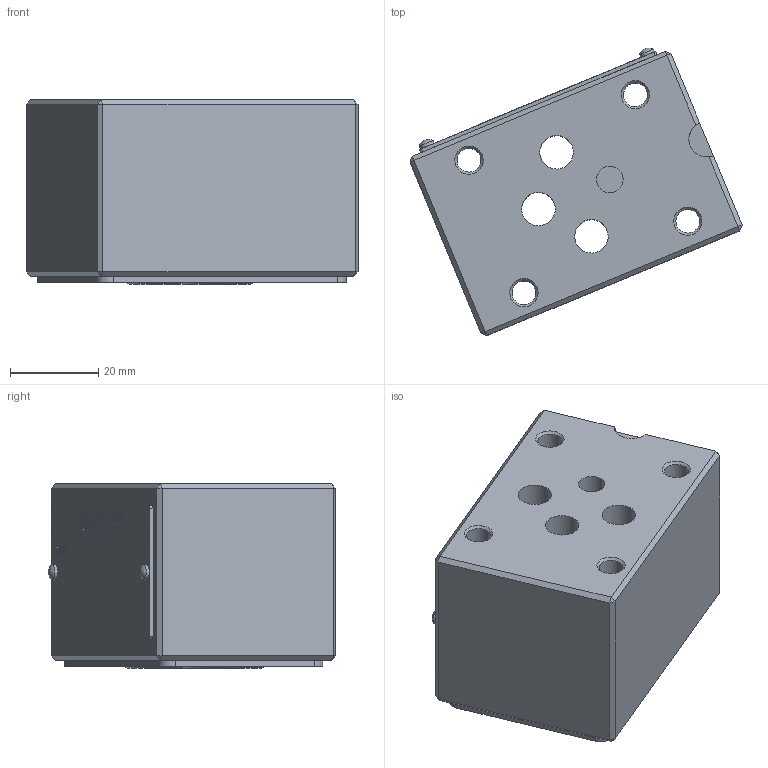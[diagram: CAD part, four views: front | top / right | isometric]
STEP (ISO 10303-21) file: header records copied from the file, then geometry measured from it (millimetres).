
FILE_DESCRIPTION(/* description */ (''),/* implementation_level */ '2;1');
FILE_NAME(/* name */ 'Z1S6C叠加式单向阀.prt.stp',/* time_stamp */ '2022-03-30T19:24:16+08:00',/* author */ (''),/* organization */ (''),/* preprocessor_version */ 'ST-DEVELOPER v16.7',/* originating_system */ 'SIEMENS PLM Software NX 12.0',/* authorisation */ '');
FILE_SCHEMA (('AUTOMOTIVE_DESIGN { 1 0 10303 214 3 1 1 1 }'));
Length unit declared in the file: millimetre
Products named in the file (1): Z1S6C叠加式单向阀
Bounding box: 75.21 x 65.16 x 41.78 mm (x, y, z)
Volume: 108073.1 mm3; surface area: 29103.6 mm2
Topology: 10 solids, 10 shells, 1052 faces, 2963 edges, 1963 vertices
Faces by surface type: plane 921, extrusion 77, cylinder 39, cone 9, torus 4, sphere 2
Full cylindrical faces by diameter (mm): 1.8 x2, 1.9 x2, 2 x2, 2.5 x2, 3.4 x2, 5.4 x4, 5.5 x4, 6 x1, 7.6 x3, 10 x1, 12 x1, 12.2 x4, 14 x2
Entity records: 40132 total; most frequent: CARTESIAN_POINT 6613, ORIENTED_EDGE 5818, DIRECTION 4872, EDGE_CURVE 2909, VECTOR 2744, LINE 2667, VERTEX_POINT 1958, EDGE_LOOP 1163
